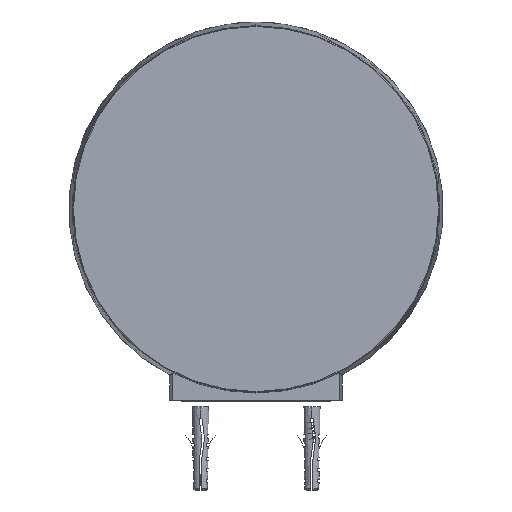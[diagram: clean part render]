
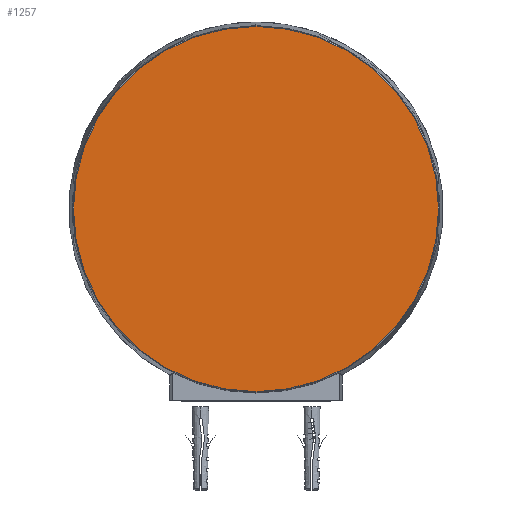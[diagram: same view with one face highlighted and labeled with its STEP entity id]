
A CAD part, front view. The second image highlights one B-rep face of the part: STEP entity #1257.
In plain terms, the highlighted planar face has unit normal (0, -1, 0).
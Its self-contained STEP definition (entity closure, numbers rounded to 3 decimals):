
#1=CARTESIAN_POINT('',(0.,0.,0.));
#2=DIRECTION('',(0.,-1.,0.));
#3=DIRECTION('',(0.,0.,-1.));
#4=AXIS2_PLACEMENT_3D('',#1,#2,#3);
#6=CARTESIAN_POINT('',(0.,0.,0.));
#7=DIRECTION('',(0.,-1.,0.));
#8=DIRECTION('',(0.,0.,1.));
#9=AXIS2_PLACEMENT_3D('',#6,#7,#8);
#1082=CARTESIAN_POINT('',(0.,0.,-65.903));
#1083=CARTESIAN_POINT('',(0.,0.,65.903));
#1084=VERTEX_POINT('',#1082);
#1085=VERTEX_POINT('',#1083);
#1246=CARTESIAN_POINT('',(0.,0.,0.));
#1247=DIRECTION('',(0.,1.,0.));
#1248=DIRECTION('',(0.,0.,-1.));
#1249=AXIS2_PLACEMENT_3D('',#1246,#1247,#1248);
#1250=PLANE('',#1249);
#1252=ORIENTED_EDGE('',*,*,#1251,.F.);
#1254=ORIENTED_EDGE('',*,*,#1253,.F.);
#1255=EDGE_LOOP('',(#1252,#1254));
#1256=FACE_OUTER_BOUND('',#1255,.F.);
#1257=ADVANCED_FACE('',(#1256),#1250,.F.);
#5=CIRCLE('',#4,65.903);
#10=CIRCLE('',#9,65.903);
#1251=EDGE_CURVE('',#1084,#1085,#5,.T.);
#1253=EDGE_CURVE('',#1085,#1084,#10,.T.);
